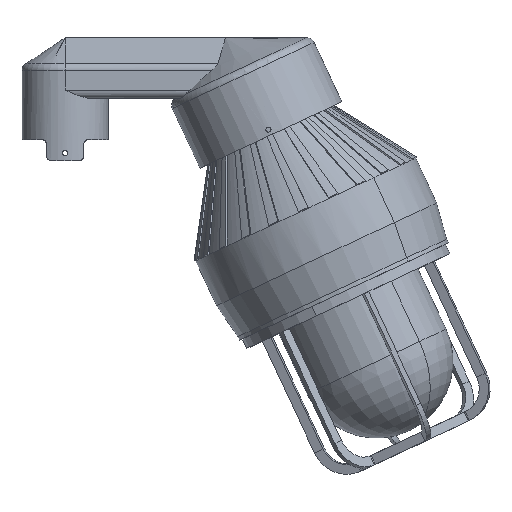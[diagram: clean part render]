
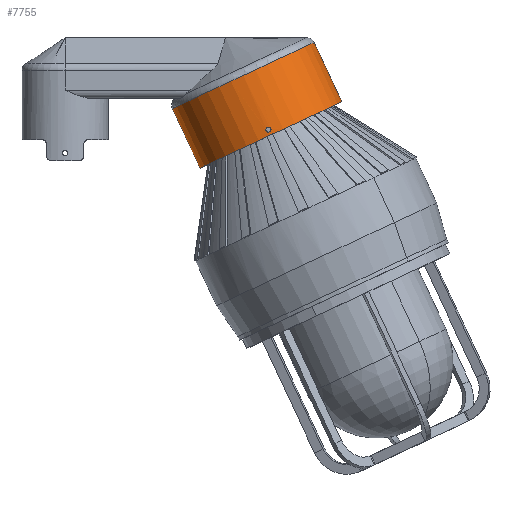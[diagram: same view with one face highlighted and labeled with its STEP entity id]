
A CAD part, top view. The second image highlights one B-rep face of the part: STEP entity #7755.
In plain terms, the highlighted cylindrical face has radius 60.325 mm (diameter 120.65 mm), a partial arc.
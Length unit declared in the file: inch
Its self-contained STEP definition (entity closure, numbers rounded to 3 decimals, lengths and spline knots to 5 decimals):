
#37 = CARTESIAN_POINT ( 'NONE',  ( 0.75988, -1.81402, 2.37372 ) ) ;
#132 = CARTESIAN_POINT ( 'NONE',  ( 0.75589, -1.78882, 2.37394 ) ) ;
#184 = CARTESIAN_POINT ( 'NONE',  ( 0.83931, -1.71058, 2.3747 ) ) ;
#231 = CARTESIAN_POINT ( 'NONE',  ( 0.91239, -1.78367, 2.37388 ) ) ;
#725 = CARTESIAN_POINT ( 'NONE',  ( 0.91239, -1.78882, 2.37394 ) ) ;
#810 = FACE_OUTER_BOUND ( 'NONE', #7055, .T. ) ;
#992 = ORIENTED_EDGE ( 'NONE', *, *, #13317, .T. ) ;
#1042 = CARTESIAN_POINT ( 'NONE',  ( 0.84436, -1.86707, 2.3749 ) ) ;
#1092 = CARTESIAN_POINT ( 'NONE',  ( 0.75641, -1.79912, 2.37382 ) ) ;
#1166 = CARTESIAN_POINT ( 'NONE',  ( 0., 0., 0. ) ) ;
#1181 = CARTESIAN_POINT ( 'NONE',  ( 0.75639, -1.77864, 2.37408 ) ) ;
#1229 = CARTESIAN_POINT ( 'NONE',  ( 0.85446, -1.71309, 2.37447 ) ) ;
#1318 = LINE ( 'NONE', #11165, #9362 ) ;
#1818 = CIRCLE ( 'NONE', #3202, 2.375 ) ;
#1975 = VERTEX_POINT ( 'NONE', #725 ) ;
#2104 = CARTESIAN_POINT ( 'NONE',  ( 0.82389, -1.86657, 2.37463 ) ) ;
#2149 = CARTESIAN_POINT ( 'NONE',  ( 0.75589, -1.78882, 2.37394 ) ) ;
#2237 = CARTESIAN_POINT ( 'NONE',  ( 0.75989, -1.76361, 2.37433 ) ) ;
#2290 = CARTESIAN_POINT ( 'NONE',  ( 0.87354, -1.72045, 2.37413 ) ) ;
#2516 = EDGE_CURVE ( 'NONE', #7683, #1975, #3024, .T. ) ;
#3024 = B_SPLINE_CURVE_WITH_KNOTS ( 'NONE', 3,
 ( #132, #12693, #1181, #8517, #2237, #9585, #3307, #10630, #4360, #11694, #5413, #12750, #6450, #184, #7514, #1229, #8562, #2290, #9629, #3352, #10675, #4409, #11736, #5450, #12792, #6501, #231, #7554 ),
 .UNSPECIFIED., .F., .F.,
 ( 4, 2, 2, 2, 2, 2, 2, 2, 2, 2, 2, 2, 2, 4 ),
 ( 0.01018, 0.01057, 0.01096, 0.01174, 0.01251, 0.0129, 0.01329, 0.01368, 0.01407, 0.01484, 0.01523, 0.01562, 0.01601, 0.0164 ),
 .UNSPECIFIED. ) ;
#3118 = CARTESIAN_POINT ( 'NONE',  ( 0.90446, -1.82354, 2.3745 ) ) ;
#3169 = CARTESIAN_POINT ( 'NONE',  ( 0.80896, -1.86309, 2.37438 ) ) ;
#3202 = AXIS2_PLACEMENT_3D ( 'NONE', #3578, #10886, #4617 ) ;
#3221 = ORIENTED_EDGE ( 'NONE', *, *, #2516, .T. ) ;
#3271 = CARTESIAN_POINT ( 'NONE',  ( 3.06111, -0.94484, 0. ) ) ;
#3294 = FACE_BOUND ( 'NONE', #13373, .T. ) ;
#3307 = CARTESIAN_POINT ( 'NONE',  ( 0.77157, -1.74075, 2.37474 ) ) ;
#3352 = CARTESIAN_POINT ( 'NONE',  ( 0.89309, -1.73711, 2.37381 ) ) ;
#3578 = CARTESIAN_POINT ( 'NONE',  ( 0.90863, -1.94856, 0. ) ) ;
#3849 = DIRECTION ( 'NONE',  ( -0.423, 0.906, 0. ) ) ;
#3871 = CARTESIAN_POINT ( 'NONE',  ( -1.24385, -2.95228, 0. ) ) ;
#3926 = CARTESIAN_POINT ( 'NONE',  ( 0.06731, -0.14435, 0. ) ) ;
#4098 = ORIENTED_EDGE ( 'NONE', *, *, #12524, .T. ) ;
#4182 = CARTESIAN_POINT ( 'NONE',  ( 0.89638, -1.83653, 2.37473 ) ) ;
#4233 = CARTESIAN_POINT ( 'NONE',  ( 0.79491, -1.85672, 2.37413 ) ) ;
#4360 = CARTESIAN_POINT ( 'NONE',  ( 0.79477, -1.72043, 2.37501 ) ) ;
#4409 = CARTESIAN_POINT ( 'NONE',  ( 0.90207, -1.74965, 2.37371 ) ) ;
#4617 = DIRECTION ( 'NONE',  ( -0.906, -0.423, 0. ) ) ;
#4719 = DIRECTION ( 'NONE',  ( -0.423, 0.906, 0. ) ) ;
#4948 = DIRECTION ( 'NONE',  ( 0.906, 0.423, 0. ) ) ;
#5014 = VERTEX_POINT ( 'NONE', #3871 ) ;
#5225 = CARTESIAN_POINT ( 'NONE',  ( 0.88584, -1.84778, 2.3749 ) ) ;
#5271 = CARTESIAN_POINT ( 'NONE',  ( 0.78248, -1.84782, 2.37392 ) ) ;
#5408 = ORIENTED_EDGE ( 'NONE', *, *, #10074, .T. ) ;
#5413 = CARTESIAN_POINT ( 'NONE',  ( 0.81389, -1.71307, 2.37497 ) ) ;
#5450 = CARTESIAN_POINT ( 'NONE',  ( 0.90839, -1.7636, 2.37372 ) ) ;
#5736 = CYLINDRICAL_SURFACE ( 'NONE', #11943, 2.375 ) ;
#6227 = CIRCLE ( 'NONE', #13218, 2.375 ) ;
#6266 = CARTESIAN_POINT ( 'NONE',  ( 0.87337, -1.85673, 2.375 ) ) ;
#6318 = CARTESIAN_POINT ( 'NONE',  ( 0.76579, -1.82828, 2.3737 ) ) ;
#6387 = DIRECTION ( 'NONE',  ( -0.906, -0.423, 0. ) ) ;
#6450 = CARTESIAN_POINT ( 'NONE',  ( 0.8291, -1.71057, 2.37483 ) ) ;
#6501 = CARTESIAN_POINT ( 'NONE',  ( 0.91189, -1.77859, 2.37382 ) ) ;
#7055 = EDGE_LOOP ( 'NONE', ( #4098, #8827, #992, #13601 ) ) ;
#7275 = CARTESIAN_POINT ( 'NONE',  ( 0.91239, -1.79914, 2.37407 ) ) ;
#7328 = CARTESIAN_POINT ( 'NONE',  ( 0.85466, -1.86502, 2.37498 ) ) ;
#7369 = CARTESIAN_POINT ( 'NONE',  ( 0.7584, -1.80914, 2.37374 ) ) ;
#7447 = EDGE_CURVE ( 'NONE', #5014, #8656, #1318, .T. ) ;
#7514 = CARTESIAN_POINT ( 'NONE',  ( 0.84439, -1.71108, 2.37463 ) ) ;
#7554 = CARTESIAN_POINT ( 'NONE',  ( 0.91239, -1.78882, 2.37394 ) ) ;
#7683 = VERTEX_POINT ( 'NONE', #10473 ) ;
#7755 = ADVANCED_FACE ( 'NONE', ( #3294, #810 ), #5736, .T. ) ;
#7792 = VERTEX_POINT ( 'NONE', #10658 ) ;
#7831 = CARTESIAN_POINT ( 'NONE',  ( 2.15248, 1.00372, 0. ) ) ;
#7967 = VECTOR ( 'NONE', #4719, 39.37008 ) ;
#8327 = CARTESIAN_POINT ( 'NONE',  ( 0.91239, -1.78882, 2.37394 ) ) ;
#8372 = CARTESIAN_POINT ( 'NONE',  ( 0.82906, -1.86708, 2.37471 ) ) ;
#8424 = CARTESIAN_POINT ( 'NONE',  ( 0.75589, -1.79394, 2.37388 ) ) ;
#8517 = CARTESIAN_POINT ( 'NONE',  ( 0.75838, -1.76858, 2.37424 ) ) ;
#8562 = CARTESIAN_POINT ( 'NONE',  ( 0.85942, -1.71459, 2.37438 ) ) ;
#8656 = VERTEX_POINT ( 'NONE', #12345 ) ;
#8827 = ORIENTED_EDGE ( 'NONE', *, *, #9651, .T. ) ;
#9362 = VECTOR ( 'NONE', #3849, 39.37008 ) ;
#9403 = CARTESIAN_POINT ( 'NONE',  ( 0.91036, -1.8093, 2.37424 ) ) ;
#9453 = CARTESIAN_POINT ( 'NONE',  ( 0.81384, -1.86457, 2.37447 ) ) ;
#9564 = DIRECTION ( 'NONE',  ( -0.423, 0.906, 0. ) ) ;
#9585 = CARTESIAN_POINT ( 'NONE',  ( 0.76574, -1.74948, 2.37458 ) ) ;
#9629 = CARTESIAN_POINT ( 'NONE',  ( 0.88227, -1.72629, 2.37397 ) ) ;
#9651 = EDGE_CURVE ( 'NONE', #11159, #7792, #10774, .T. ) ;
#10074 = EDGE_CURVE ( 'NONE', #1975, #7683, #12373, .T. ) ;
#10449 = CARTESIAN_POINT ( 'NONE',  ( 0.90205, -1.82804, 2.37458 ) ) ;
#10473 = CARTESIAN_POINT ( 'NONE',  ( 0.75589, -1.78882, 2.37394 ) ) ;
#10493 = CARTESIAN_POINT ( 'NONE',  ( 0.7995, -1.85918, 2.37422 ) ) ;
#10630 = CARTESIAN_POINT ( 'NONE',  ( 0.78598, -1.72632, 2.37496 ) ) ;
#10658 = CARTESIAN_POINT ( 'NONE',  ( 2.21979, 0.85937, 0. ) ) ;
#10675 = CARTESIAN_POINT ( 'NONE',  ( 0.89639, -1.74113, 2.37377 ) ) ;
#10774 = LINE ( 'NONE', #7831, #7967 ) ;
#10886 = DIRECTION ( 'NONE',  ( -0.423, 0.906, 0. ) ) ;
#11159 = VERTEX_POINT ( 'NONE', #3271 ) ;
#11165 = CARTESIAN_POINT ( 'NONE',  ( -2.15248, -1.00372, 0. ) ) ;
#11243 = DIRECTION ( 'NONE',  ( 0.423, -0.906, 0. ) ) ;
#11519 = CARTESIAN_POINT ( 'NONE',  ( 0.89307, -1.84056, 2.3748 ) ) ;
#11559 = CARTESIAN_POINT ( 'NONE',  ( 0.78643, -1.85105, 2.37398 ) ) ;
#11694 = CARTESIAN_POINT ( 'NONE',  ( 0.80901, -1.71454, 2.37499 ) ) ;
#11736 = CARTESIAN_POINT ( 'NONE',  ( 0.90447, -1.75414, 2.37371 ) ) ;
#11943 = AXIS2_PLACEMENT_3D ( 'NONE', #1166, #9564, #6387 ) ;
#12345 = CARTESIAN_POINT ( 'NONE',  ( -2.08517, -1.14806, 0. ) ) ;
#12373 = B_SPLINE_CURVE_WITH_KNOTS ( 'NONE', 3,
 ( #8327, #7275, #9403, #3118, #10449, #4182, #11519, #5225, #12556, #6266, #13604, #7328, #1042, #8372, #2104, #9453, #3169, #10493, #4233, #11559, #5271, #12601, #6318, #37, #7369, #1092, #8424, #2149 ),
 .UNSPECIFIED., .F., .F.,
 ( 4, 2, 2, 2, 2, 2, 2, 2, 2, 2, 2, 2, 2, 4 ),
 ( 0.00397, 0.00475, 0.00514, 0.00552, 0.00591, 0.0063, 0.00708, 0.00747, 0.00785, 0.00824, 0.00863, 0.00941, 0.0098, 0.01018 ),
 .UNSPECIFIED. ) ;
#12524 = EDGE_CURVE ( 'NONE', #5014, #11159, #1818, .T. ) ;
#12556 = CARTESIAN_POINT ( 'NONE',  ( 0.8819, -1.85102, 2.37494 ) ) ;
#12601 = CARTESIAN_POINT ( 'NONE',  ( 0.77154, -1.83689, 2.37375 ) ) ;
#12693 = CARTESIAN_POINT ( 'NONE',  ( 0.75589, -1.78371, 2.37401 ) ) ;
#12750 = CARTESIAN_POINT ( 'NONE',  ( 0.82391, -1.71108, 2.37489 ) ) ;
#12792 = CARTESIAN_POINT ( 'NONE',  ( 0.9099, -1.76858, 2.37374 ) ) ;
#13218 = AXIS2_PLACEMENT_3D ( 'NONE', #3926, #11243, #4948 ) ;
#13317 = EDGE_CURVE ( 'NONE', #7792, #8656, #6227, .T. ) ;
#13373 = EDGE_LOOP ( 'NONE', ( #3221, #5408 ) ) ;
#13601 = ORIENTED_EDGE ( 'NONE', *, *, #7447, .F. ) ;
#13604 = CARTESIAN_POINT ( 'NONE',  ( 0.86879, -1.85917, 2.375 ) ) ;
